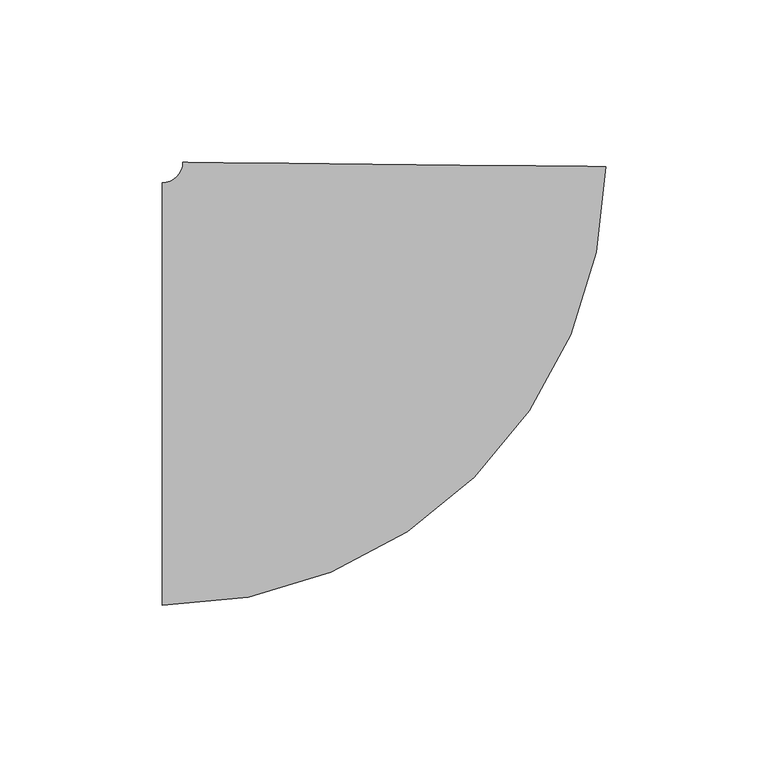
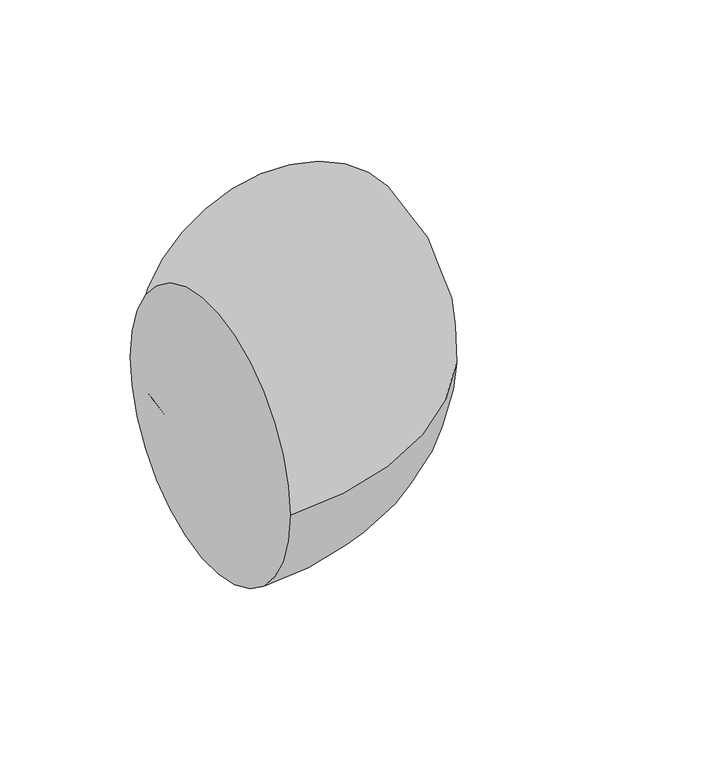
"""IFC4 building model written with IfcOpenShell, lengths in millimetres: pipe fitting geometry, M_Codo - Genérico : Estándar."""

from ifc_helpers import new_model, si_unit, point, frame, origin, place, context, project, spatial, circle_curve, ellipse_curve, trimmed, source, transform, mapped, element, save
from ifc_brep_helpers import plane_surface, revolved_surface, advanced_brep


def pipe_fitting_8e92d537(model_context):
    return source(origin(), model_context, "Body", "AdvancedBrep", [
        advanced_brep(
        [(-70.7266968, -65.0875, 0.0), (-70.7266968, 65.0875, 0.0), (65.7914775, 70.0723183, 0.0), (-64.3770143, 71.3740032, 0.0)],
        [
            (0, 1, circle_curve(frame((-70.7266968, 0.0, 0.0), z_axis=(-1.0, 0.0, 0.0), x_axis=(0.0, 1.0, 0.0)), 65.0875)),
            (1, 0, circle_curve(frame((-70.7266968, 0.0, 0.0), z_axis=(-1.0, 0.0, 0.0), x_axis=(0.0, 1.0, 0.0)), 65.0875)),
            (2, 3, circle_curve(frame((0.7072316, 70.7231607, 0.0), z_axis=(0.009999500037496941, 0.9999500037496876, 0.0), x_axis=(-0.9999500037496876, 0.009999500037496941, 0.0)), 65.0875)),
            (3, 2, circle_curve(frame((0.7072316, 70.7231607, 0.0), z_axis=(0.009999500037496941, 0.9999500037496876, 0.0), x_axis=(-0.9999500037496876, 0.009999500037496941, 0.0)), 65.0875)),
            (3, 1, circle_curve(frame((-70.7266968, 71.4375, 0.0), z_axis=(0.0, 0.0, -1.0), x_axis=(0.0, -1.0, 0.0)), 6.35)),
            (0, 2, circle_curve(frame((-70.7266968, 71.4375, 0.0), z_axis=(0.0, 0.0, 1.0), x_axis=(0.0, -1.0, 0.0)), 136.525)),
        ],
        [
            plane_surface(frame((-70.7266968, 0.0, 0.0), z_axis=(-1.0, 0.0, 0.0), x_axis=(0.0, 0.0, 1.0))),
            plane_surface(frame((0.7072316, 70.7231607, 0.0), z_axis=(0.009999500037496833, 0.9999500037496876, 0.0), x_axis=(0.0, 0.0, 1.0))),
            revolved_surface(trimmed(ellipse_curve(frame((-70.7266968, 0.0, 0.0), z_axis=(-1.0, 0.0, 0.0), x_axis=(0.0, 1.0, 0.0)), 65.0875, 65.0875), [point((-70.7266968, -65.0875, 0.0))], [point((-70.7266968, 65.0875, 0.0))], True, "CARTESIAN"), (-70.7266968, 71.4375, 0.0), (0.0, 0.0, 1.0)),
            revolved_surface(trimmed(ellipse_curve(frame((-70.7266968, 0.0, 0.0), z_axis=(-1.0, 0.0, 0.0), x_axis=(0.0, 1.0, 0.0)), 65.0875, 65.0875), [point((-70.7266968, 65.0875, 0.0))], [point((-70.7266968, -65.0875, 0.0))], True, "CARTESIAN"), (-70.7266968, 71.4375, 0.0), (0.0, 0.0, 1.0)),
        ],
        [
            (0, [[1, 2]]),
            (1, [[3, 4]]),
            (2, [[5, -1, 6, -4]]),
            (3, [[-6, -2, -5, -3]]),
        ],
    ),
    ])


if __name__ == "__main__":
    model = new_model("IFC4")
    model_context = context("Model", 3, world=origin())
    ifc_project = project(units=[si_unit("LENGTHUNIT", "METRE", prefix="MILLI")], contexts=[model_context])
    site = spatial("IfcSite", under=ifc_project)
    building = spatial("IfcBuilding", under=site)
    placement = place(None, origin())
    pipe_fitting_shape = pipe_fitting_8e92d537(model_context)
    element("IfcPipeFitting", 1, ObjectType="M_Codo - Genérico : Estándar", at=placement, inside=building, context=model_context, shape_type="MappedRepresentation", body=[
        mapped(pipe_fitting_shape, transform((0.0, 0.0, 0.0), x_axis=(1.0, 0.0, 0.0), y_axis=(0.0, 1.0, 0.0), z_axis=(0.0, 0.0, 1.0))),
    ])
    save(model, "model.ifc")
